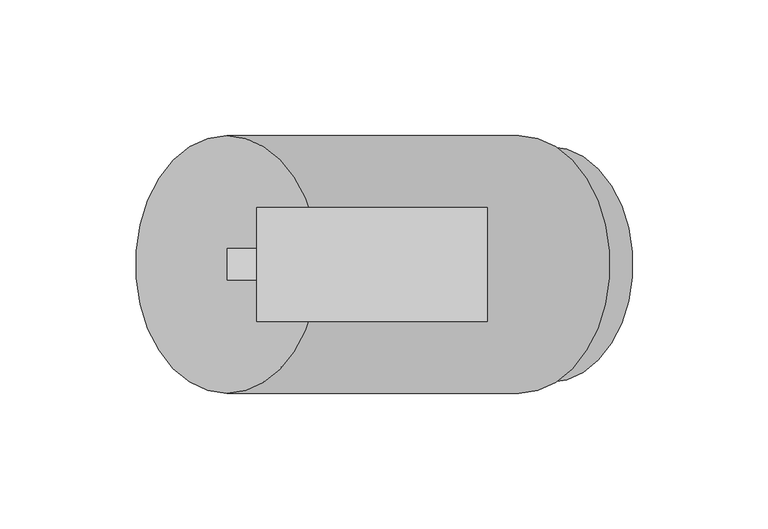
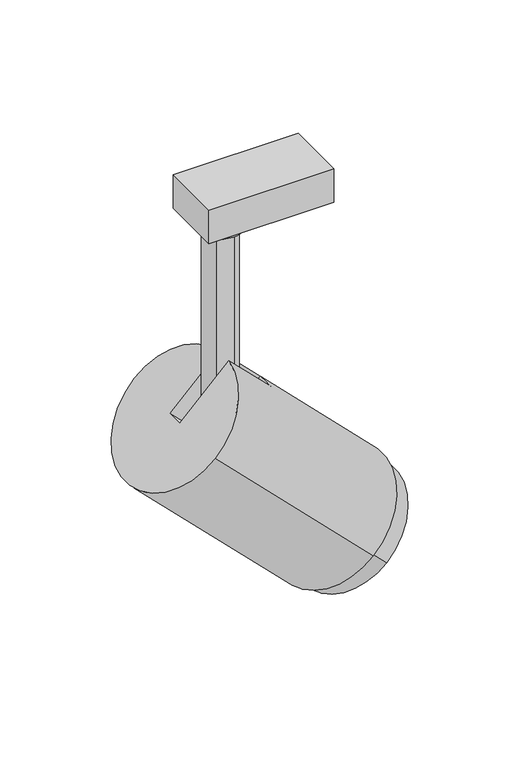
"""IFC4 building model written with IfcOpenShell, lengths in millimetres: light fixture geometry, GENILED_Светильник светодиодный_Track Classic Zoom : Track Classic Zoom 10Вт 90Ra_60x25_Шинопровод."""

from ifc_helpers import new_model, si_unit, frame, origin, place, context, project, spatial, polyline, circle_curve, outline, extrude, source, transform, mapped, element, save
from ifc_brep_helpers import plane_surface, cylinder_surface, revolved_surface, advanced_brep


def light_fixture_68bc1c10(model_context):
    return source(origin(), model_context, "Body", "SolidModel", [
        advanced_brep(
        [(87.8580176, -43.5, -277.1955897), (87.8580176, 43.5, -277.1955897), (87.8580176, -41.5, -277.1955897), (87.8580176, 41.5, -277.1955897), (76.5443091, 43.5, -265.8818812), (76.5443091, -43.5, -265.8818812), (76.5443091, 41.5, -265.8818812), (76.5443091, -41.5, -265.8818812), (76.5443091, -47.5, -265.8818812), (76.5443091, 47.5, -265.8818812), (-30.9359217, 47.5, -158.4016504), (-30.9359217, -47.5, -158.4016504), (2.3826167, -6.0, -125.083112), (-30.9359217, -6.0, -158.4016504), (-30.9359217, 6.0, -158.4016504), (2.3826167, 6.0, -125.083112), (30.666888, 6.0, -153.3673833), (30.9359217, 0.0, -153.0983496), (30.666888, -6.0, -153.3673833), (-2.6516504, -6.0, -186.6859217), (-2.6516504, 6.0, -186.6859217)],
        [
            (0, 1, circle_curve(frame((87.8580176, 0.0, -277.1955897), z_axis=(0.7071067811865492, 0.0, -0.7071067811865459), x_axis=(0.0, 1.0, 0.0)), 43.5)),
            (1, 0, circle_curve(frame((87.8580176, 0.0, -277.1955897), z_axis=(0.7071067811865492, 0.0, -0.7071067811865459), x_axis=(0.0, 1.0, 0.0)), 43.5)),
            (2, 3, circle_curve(frame((87.8580176, 0.0, -277.1955897), z_axis=(-0.7071067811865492, 0.0, 0.7071067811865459), x_axis=(0.0, 1.0, 0.0)), 41.5)),
            (3, 2, circle_curve(frame((87.8580176, 0.0, -277.1955897), z_axis=(-0.7071067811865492, 0.0, 0.7071067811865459), x_axis=(0.0, 1.0, 0.0)), 41.5)),
            (1, 4),
            (4, 5, circle_curve(frame((76.5443091, 0.0, -265.8818812), z_axis=(0.7071067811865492, 0.0, -0.7071067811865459), x_axis=(0.0, 1.0, 0.0)), 43.5)),
            (5, 0),
            (5, 4, circle_curve(frame((76.5443091, 0.0, -265.8818812), z_axis=(0.7071067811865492, 0.0, -0.7071067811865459), x_axis=(0.0, 1.0, 0.0)), 43.5)),
            (3, 6),
            (6, 7, circle_curve(frame((76.5443091, 0.0, -265.8818812), z_axis=(-0.7071067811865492, 0.0, 0.7071067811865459), x_axis=(0.0, 1.0, 0.0)), 41.5)),
            (7, 2),
            (7, 6, circle_curve(frame((76.5443091, 0.0, -265.8818812), z_axis=(-0.7071067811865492, 0.0, 0.7071067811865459), x_axis=(0.0, 1.0, 0.0)), 41.5)),
            (8, 9, circle_curve(frame((76.5443091, 0.0, -265.8818812), z_axis=(0.7071067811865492, 0.0, -0.7071067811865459), x_axis=(0.0, 1.0, 0.0)), 47.5)),
            (9, 8, circle_curve(frame((76.5443091, 0.0, -265.8818812), z_axis=(0.7071067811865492, 0.0, -0.7071067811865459), x_axis=(0.0, 1.0, 0.0)), 47.5)),
            (10, 11, circle_curve(frame((-30.9359217, 0.0, -158.4016504), z_axis=(-0.7071067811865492, 0.0, 0.7071067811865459), x_axis=(0.0, 1.0, 0.0)), 47.5)),
            (11, 12, circle_curve(frame((-30.9359217, 0.0, -158.4016504), z_axis=(-0.7071067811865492, 0.0, 0.7071067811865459), x_axis=(0.0, 1.0, 0.0)), 47.5)),
            (12, 13),
            (13, 14),
            (14, 15),
            (15, 10, circle_curve(frame((-30.9359217, 0.0, -158.4016504), z_axis=(-0.7071067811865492, 0.0, 0.7071067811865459), x_axis=(0.0, 1.0, 0.0)), 47.5)),
            (9, 10),
            (15, 16),
            (16, 17, circle_curve(frame((-2.6516504, 0.0, -186.6859217), z_axis=(0.7071067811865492, 0.0, -0.7071067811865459), x_axis=(0.0, 1.0, 0.0)), 47.5)),
            (17, 18, circle_curve(frame((-2.6516504, 0.0, -186.6859217), z_axis=(0.7071067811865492, 0.0, -0.7071067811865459), x_axis=(0.0, 1.0, 0.0)), 47.5)),
            (18, 12),
            (11, 8),
            (13, 19),
            (19, 20),
            (20, 14),
            (18, 19),
            (16, 20),
        ],
        [
            plane_surface(frame((87.8580176, 43.5, -277.1955897), z_axis=(0.7071067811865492, 0.0, -0.7071067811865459), x_axis=(0.7071067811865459, 0.0, 0.7071067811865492))),
            cylinder_surface(frame((87.8580176, 0.0, -277.1955897), z_axis=(-0.7071067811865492, 0.0, 0.7071067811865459), x_axis=(0.0, 1.0, 0.0)), 43.5),
            revolved_surface(polyline([(87.85801760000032, 41.5, -277.19558969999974), (76.54430910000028, 41.5, -265.8818811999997)]), (-30.9359217, 0.0, -158.4016504), (0.7071067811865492, 0.0, -0.7071067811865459)),
            plane_surface(frame((76.5443091, 47.5, -265.8818812), z_axis=(0.7071067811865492, 0.0, -0.7071067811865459), x_axis=(0.7071067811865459, 0.0, 0.7071067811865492))),
            plane_surface(frame((-30.9359217, 47.5, -158.4016504), z_axis=(-0.7071067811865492, 0.0, 0.7071067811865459), x_axis=(-0.7071067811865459, 0.0, -0.7071067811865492))),
            cylinder_surface(frame((76.5443091, 0.0, -265.8818812), z_axis=(-0.7071067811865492, 0.0, 0.7071067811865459), x_axis=(0.0, 1.0, 0.0)), 47.5),
            plane_surface(frame((-30.9359217, -6.0, -158.4016504), z_axis=(0.7071067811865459, 0.0, 0.7071067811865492), x_axis=(0.0, 1.0, 0.0))),
            plane_surface(frame((2.6516504, -6.0, -124.8140783), z_axis=(0.0, 1.0000000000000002, 0.0), x_axis=(-0.7071067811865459, 0.0, -0.7071067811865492))),
            plane_surface(frame((30.9359217, -6.0, -153.0983496), z_axis=(-0.7071067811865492, 0.0, 0.7071067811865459), x_axis=(-0.7071067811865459, 0.0, -0.7071067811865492))),
            plane_surface(frame((30.9359217, 6.0, -153.0983496), z_axis=(0.0, -1.0000000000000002, 0.0), x_axis=(-0.7071067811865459, 0.0, -0.7071067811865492))),
        ],
        [
            (0, [[1, 2], [3, 4]]),
            (1, [[-2, 5, 6, 7]]),
            (1, [[-1, -7, 8, -5]]),
            (2, [[-4, 9, 10, 11]]),
            (2, [[-3, -11, 12, -9]]),
            (3, [[-10, -12]]),
            (3, [[13, 14], [-6, -8]]),
            (4, [[15, 16, 17, 18, 19, 20]]),
            (5, [[-14, 21, -20, 22, 23, 24, 25, -16, 26]]),
            (5, [[-13, -26, -15, -21]]),
            (6, [[27, 28, 29, -18]]),
            (7, [[-27, -17, -25, 30]]),
            (8, [[-28, -30, -24, -23, 31]]),
            (9, [[-29, -31, -22, -19]]),
        ],
    ),
        advanced_brep(
        [(6.0, 6.0, -155.75), (6.0, -6.0, -155.75), (-6.0, -6.0, -155.75), (-6.0, 6.0, -155.75), (-6.0, 6.0, -30.0), (6.0, 6.0, -30.0), (6.0, -6.0, -30.0), (-6.0, -6.0, -30.0), (-15.0, 0.0, -30.0), (15.0, 0.0, -30.0), (15.0, 0.0, -24.0), (-15.0, 0.0, -24.0)],
        [
            (0, 1, circle_curve(frame((6.0, 0.0, -155.75), z_axis=(0.0, 0.0, -1.0), x_axis=(1.0, 0.0, 0.0)), 6.0)),
            (1, 2),
            (2, 3, circle_curve(frame((-6.0, 0.0, -155.75), z_axis=(0.0, 0.0, -1.0), x_axis=(1.0, 0.0, 0.0)), 6.0)),
            (3, 0),
            (3, 4),
            (4, 5),
            (5, 0),
            (1, 6),
            (6, 7),
            (7, 2),
            (7, 4, circle_curve(frame((-6.0, 0.0, -30.0), z_axis=(0.0, 0.0, -1.0), x_axis=(1.0, 0.0, 0.0)), 6.0)),
            (5, 6, circle_curve(frame((6.0, 0.0, -30.0), z_axis=(0.0, 0.0, -1.0), x_axis=(1.0, 0.0, 0.0)), 6.0)),
            (8, 9, circle_curve(frame((0.0, 0.0, -30.0), z_axis=(0.0, 0.0, -1.0), x_axis=(1.0, 0.0, 0.0)), 15.0)),
            (9, 8, circle_curve(frame((0.0, 0.0, -30.0), z_axis=(0.0, 0.0, -1.0), x_axis=(1.0, 0.0, 0.0)), 15.0)),
            (10, 11, circle_curve(frame((0.0, 0.0, -24.0), z_axis=(0.0, 0.0, -1.0), x_axis=(1.0, 0.0, 0.0)), 15.0)),
            (11, 8),
            (9, 10),
            (11, 10, circle_curve(frame((0.0, 0.0, -24.0), z_axis=(0.0, 0.0, -1.0), x_axis=(1.0, 0.0, 0.0)), 15.0)),
        ],
        [
            plane_surface(frame((-6.0, 6.0, -155.75), z_axis=(0.0, 0.0, -1.0), x_axis=(1.0, 0.0, 0.0))),
            plane_surface(frame((6.0, 6.0, -30.0), z_axis=(0.0, 1.0, 0.0), x_axis=(0.0, 0.0, -1.0))),
            plane_surface(frame((-6.0, -6.0, -30.0), z_axis=(0.0, -1.0, 0.0), x_axis=(0.0, 0.0, -1.0))),
            cylinder_surface(frame((-6.0, 0.0, -155.75), z_axis=(0.0, 0.0, 1.0), x_axis=(1.0, 0.0, 0.0)), 6.0),
            cylinder_surface(frame((6.0, 0.0, -155.75), z_axis=(0.0, 0.0, 1.0), x_axis=(1.0, 0.0, 0.0)), 6.0),
            plane_surface(frame((15.0, 0.0, -30.0), z_axis=(0.0, 0.0, -1.0), x_axis=(0.0, -1.0, 0.0))),
            cylinder_surface(frame((0.0, 0.0, -30.0), z_axis=(0.0, 0.0, 1.0), x_axis=(1.0, 0.0, 0.0)), 15.0),
            plane_surface(frame((15.0, 0.0, -24.0), z_axis=(0.0, 0.0, 1.0), x_axis=(0.0, 1.0, 0.0))),
        ],
        [
            (0, [[1, 2, 3, 4]]),
            (1, [[-4, 5, 6, 7]]),
            (2, [[-2, 8, 9, 10]]),
            (3, [[-3, -10, 11, -5]]),
            (4, [[-1, -7, 12, -8]]),
            (5, [[13, 14], [-6, -11, -9, -12]]),
            (6, [[15, 16, -14, 17]]),
            (6, [[18, -17, -13, -16]]),
            (7, [[-15, -18]]),
        ],
    ),
        extrude(outline(polyline([(-20.0, -21.0), (-20.0, 21.0), (65.0, 21.0), (65.0, -21.0), (-20.0, -21.0)])), frame((0.0, 0.0, -24.0), z_axis=(0.0, 0.0, 1.0), x_axis=(1.0, 0.0, 0.0)), (0.0, 0.0, 1.0), 24.0),
    ])


if __name__ == "__main__":
    model = new_model("IFC4")
    model_context = context("Model", 3, world=origin())
    ifc_project = project(units=[si_unit("LENGTHUNIT", "METRE", prefix="MILLI")], contexts=[model_context])
    site = spatial("IfcSite", under=ifc_project)
    building = spatial("IfcBuilding", under=site)
    placement = place(None, origin())
    light_fixture_shape = light_fixture_68bc1c10(model_context)
    element("IfcLightFixture", 1, ObjectType="GENILED_Светильник светодиодный_Track Classic Zoom : Track Classic Zoom 10Вт 90Ra_60x25_Шинопровод", at=placement, inside=building, context=model_context, shape_type="MappedRepresentation", body=[
        mapped(light_fixture_shape, transform((0.0, 0.0, 0.0), x_axis=(1.0, 0.0, 0.0), y_axis=(0.0, 1.0, 0.0), z_axis=(0.0, 0.0, 1.0))),
    ])
    save(model, "model.ifc")
